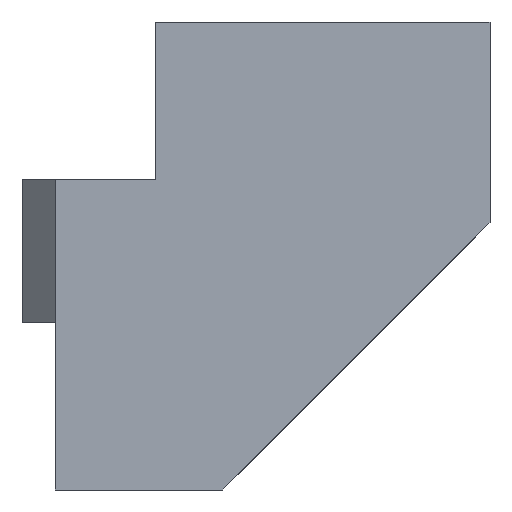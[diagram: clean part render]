
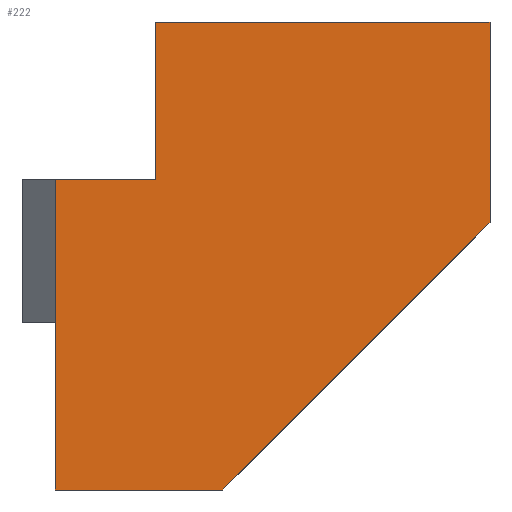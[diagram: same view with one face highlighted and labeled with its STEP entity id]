
A CAD part, left-side view. The second image highlights one B-rep face of the part: STEP entity #222.
In plain terms, the highlighted planar face has unit normal (-1, 0, 0).
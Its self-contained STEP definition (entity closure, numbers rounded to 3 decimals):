
#154=AXIS2_PLACEMENT_3D('Plane Axis2P3D',#151,#152,#153) ;
#151=CARTESIAN_POINT('Axis2P3D Location',(35.,-30.,45.)) ;
#156=CARTESIAN_POINT('Line Origine',(35.,-35.,10.75)) ;
#160=CARTESIAN_POINT('Vertex',(35.,-35.,21.5)) ;
#162=CARTESIAN_POINT('Vertex',(35.,-35.,0.)) ;
#165=CARTESIAN_POINT('Line Origine',(35.,-35.,-12.5)) ;
#169=CARTESIAN_POINT('Vertex',(35.,-35.,-25.)) ;
#172=CARTESIAN_POINT('Line Origine',(35.,-47.5,-25.)) ;
#176=CARTESIAN_POINT('Vertex',(35.,-60.,-25.)) ;
#179=CARTESIAN_POINT('Line Origine',(35.,-80.,-5.)) ;
#183=CARTESIAN_POINT('Vertex',(35.,-100.,15.)) ;
#186=CARTESIAN_POINT('Line Origine',(35.,-100.,30.)) ;
#190=CARTESIAN_POINT('Vertex',(35.,-100.,45.)) ;
#193=CARTESIAN_POINT('Line Origine',(35.,-75.,45.)) ;
#197=CARTESIAN_POINT('Vertex',(35.,-50.,45.)) ;
#200=CARTESIAN_POINT('Line Origine',(35.,-50.,33.25)) ;
#204=CARTESIAN_POINT('Vertex',(35.,-50.,21.5)) ;
#207=CARTESIAN_POINT('Line Origine',(35.,-42.5,21.5)) ;
#152=DIRECTION('Axis2P3D Direction',(1.,0.,0.)) ;
#153=DIRECTION('Axis2P3D XDirection',(0.,-1.,0.)) ;
#157=DIRECTION('Vector Direction',(0.,0.,-1.)) ;
#166=DIRECTION('Vector Direction',(0.,0.,1.)) ;
#173=DIRECTION('Vector Direction',(0.,-1.,0.)) ;
#180=DIRECTION('Vector Direction',(0.,-0.707,0.707)) ;
#187=DIRECTION('Vector Direction',(0.,0.,-1.)) ;
#194=DIRECTION('Vector Direction',(0.,-1.,0.)) ;
#201=DIRECTION('Vector Direction',(0.,0.,-1.)) ;
#208=DIRECTION('Vector Direction',(0.,-1.,0.)) ;
#158=VECTOR('Line Direction',#157,1.) ;
#167=VECTOR('Line Direction',#166,1.) ;
#174=VECTOR('Line Direction',#173,1.) ;
#181=VECTOR('Line Direction',#180,1.) ;
#188=VECTOR('Line Direction',#187,1.) ;
#195=VECTOR('Line Direction',#194,1.) ;
#202=VECTOR('Line Direction',#201,1.) ;
#209=VECTOR('Line Direction',#208,1.) ;
#213=ORIENTED_EDGE('',*,*,#164,.T.) ;
#214=ORIENTED_EDGE('',*,*,#171,.F.) ;
#215=ORIENTED_EDGE('',*,*,#178,.T.) ;
#216=ORIENTED_EDGE('',*,*,#185,.F.) ;
#217=ORIENTED_EDGE('',*,*,#192,.F.) ;
#218=ORIENTED_EDGE('',*,*,#199,.F.) ;
#219=ORIENTED_EDGE('',*,*,#206,.T.) ;
#220=ORIENTED_EDGE('',*,*,#211,.F.) ;
#222=ADVANCED_FACE('PartBody',(#221),#155,.F.) ;
#164=EDGE_CURVE('',#161,#163,#159,.T.) ;
#171=EDGE_CURVE('',#170,#163,#168,.T.) ;
#178=EDGE_CURVE('',#170,#177,#175,.T.) ;
#185=EDGE_CURVE('',#184,#177,#182,.F.) ;
#192=EDGE_CURVE('',#191,#184,#189,.T.) ;
#199=EDGE_CURVE('',#198,#191,#196,.T.) ;
#206=EDGE_CURVE('',#198,#205,#203,.T.) ;
#211=EDGE_CURVE('',#161,#205,#210,.T.) ;
#212=EDGE_LOOP('',(#213,#214,#215,#216,#217,#218,#219,#220)) ;
#221=FACE_OUTER_BOUND('',#212,.T.) ;
#159=LINE('Line',#156,#158) ;
#168=LINE('Line',#165,#167) ;
#175=LINE('Line',#172,#174) ;
#182=LINE('Line',#179,#181) ;
#189=LINE('Line',#186,#188) ;
#196=LINE('Line',#193,#195) ;
#203=LINE('Line',#200,#202) ;
#210=LINE('Line',#207,#209) ;
#155=PLANE('',#154) ;
#161=VERTEX_POINT('',#160) ;
#163=VERTEX_POINT('',#162) ;
#170=VERTEX_POINT('',#169) ;
#177=VERTEX_POINT('',#176) ;
#184=VERTEX_POINT('',#183) ;
#191=VERTEX_POINT('',#190) ;
#198=VERTEX_POINT('',#197) ;
#205=VERTEX_POINT('',#204) ;
